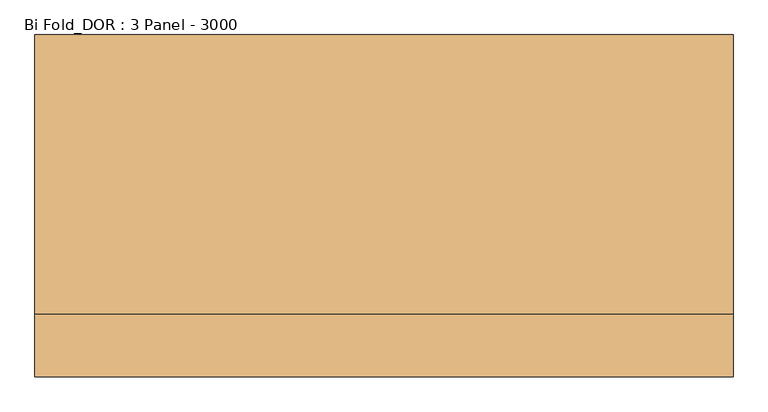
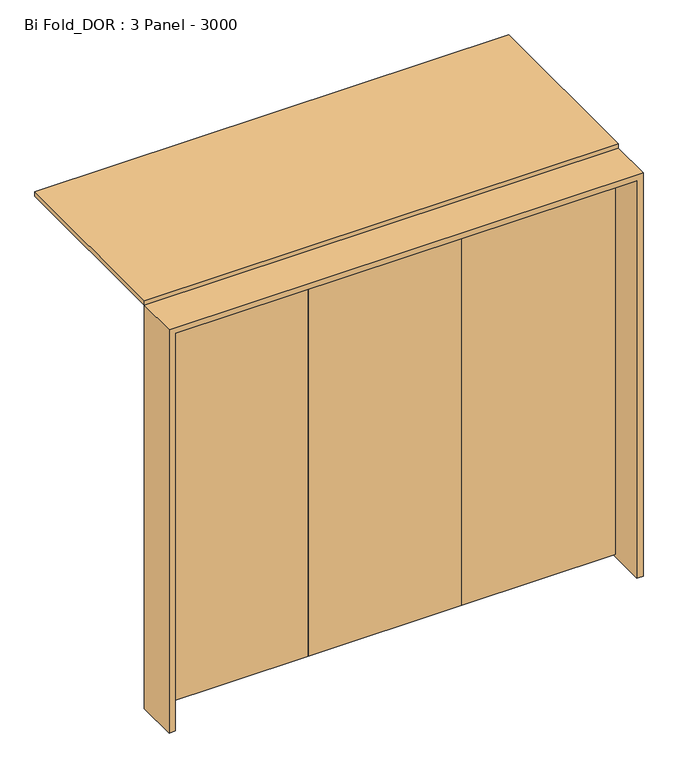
"""IFC4 building model written with IfcOpenShell, lengths in millimetres: door geometry, Bi Fold_DOR : 3 Panel - 3000."""

from ifc_helpers import new_model, si_unit, frame, origin, place, context, project, spatial, polyline, outline, extrude, source, transform, mapped, element, save


def bi_fold_dor_3_panel_3000_e548de2b(model_context):
    return source(origin(), model_context, "Body", "SweptSolid", [
        extrude(outline(polyline([(1460.0, 95.0), (486.6666667, 95.0), (486.6666667, 135.0), (1460.0, 135.0), (1460.0, 95.0)])), frame((0.0, 0.0, 20.0), z_axis=(0.0, 0.0, 1.0), x_axis=(1.0, 0.0, 0.0)), (0.0, 0.0, 1.0), 2640.0),
        extrude(outline(polyline([(486.6666667, 95.0), (-486.6666667, 95.0), (-486.6666667, 135.0), (486.6666667, 135.0), (486.6666667, 95.0)])), frame((0.0, 0.0, 20.0), z_axis=(0.0, 0.0, 1.0), x_axis=(1.0, 0.0, 0.0)), (0.0, 0.0, 1.0), 2640.0),
        extrude(outline(polyline([(-486.6666667, 95.0), (-1460.0, 95.0), (-1460.0, 135.0), (-486.6666667, 135.0), (-486.6666667, 95.0)])), frame((0.0, 0.0, 20.0), z_axis=(0.0, 0.0, 1.0), x_axis=(1.0, 0.0, 0.0)), (0.0, 0.0, 1.0), 2640.0),
        extrude(outline(polyline([(0.0, 1460.0), (0.0, 1500.0), (2700.0, 1500.0), (2700.0, -1500.0), (0.0, -1500.0), (0.0, -1460.0), (2660.0, -1460.0), (2660.0, 1460.0), (0.0, 1460.0)])), frame((0.0, -135.0, 0.0), z_axis=(0.0, 1.0, 0.0), x_axis=(0.0, 0.0, 1.0)), (0.0, 0.0, 1.0), 270.0),
        extrude(outline(polyline([(1500.0, 135.0), (-1500.0, 135.0), (-1500.0, 1335.0), (1500.0, 1335.0), (1500.0, 135.0)])), frame((0.0, 0.0, 2700.0), z_axis=(0.0, 0.0, 1.0), x_axis=(1.0, 0.0, 0.0)), (0.0, 0.0, 1.0), 30.0),
    ])


if __name__ == "__main__":
    model = new_model("IFC4")
    model_context = context("Model", 3, world=origin())
    ifc_project = project(units=[si_unit("LENGTHUNIT", "METRE", prefix="MILLI")], contexts=[model_context])
    site = spatial("IfcSite", under=ifc_project)
    building = spatial("IfcBuilding", under=site)
    placement = place(None, origin())
    bi_fold_dor_3_panel_3000_shape = bi_fold_dor_3_panel_3000_e548de2b(model_context)
    element("IfcDoor", 1, ObjectType="Bi Fold_DOR : 3 Panel - 3000", at=placement, inside=building, context=model_context, shape_type="MappedRepresentation", body=[
        mapped(bi_fold_dor_3_panel_3000_shape, transform((0.0, 0.0, 0.0), x_axis=(1.0, 0.0, 0.0), y_axis=(0.0, 1.0, 0.0), z_axis=(0.0, 0.0, 1.0))),
    ])
    save(model, "model.ifc")
